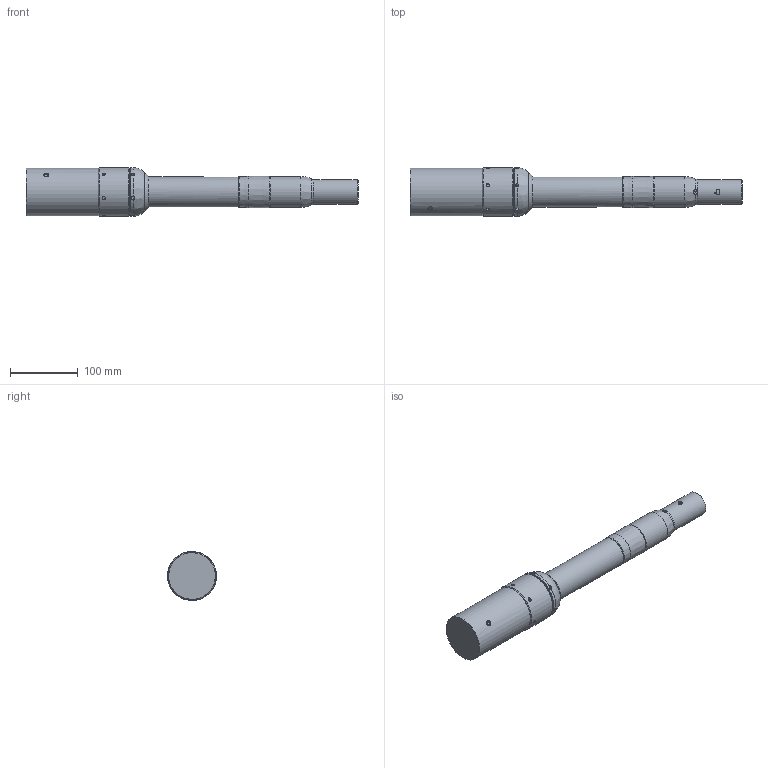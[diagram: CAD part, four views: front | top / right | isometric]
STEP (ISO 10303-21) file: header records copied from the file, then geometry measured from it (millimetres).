
FILE_DESCRIPTION(/* description */ (''),/* implementation_level */ '2;1');
FILE_NAME(/* name */ '10559656_A_SH08_STEP',/* time_stamp */ '2005-11-28T17:27:22+06:00',/* author */ (''),/* organization */ (''),/* preprocessor_version */ 'ST-DEVELOPER v9',/* originating_system */ 'EDS PLM SOLUTIONS - UNIGRAPHICS NX 2.0',/* authorisation */ '');
FILE_SCHEMA (('CONFIG_CONTROL_DESIGN'));
Length unit declared in the file: millimetre
Products named in the file (1): lgb54ACnsi9
Bounding box: 490.6 x 72.36 x 72.29 mm (x, y, z)
Volume: 1146655.3 mm3; surface area: 90471.7 mm2
Topology: 1 solids, 1 shells, 79 faces, 177 edges, 114 vertices
Faces by surface type: cylinder 40, plane 19, cone 12, torus 6, bspline 2
Full cylindrical faces by diameter (mm): 1.016 x1, 4.978 x12, 6.731 x1, 36.83 x1, 41.758 x1, 42.672 x1, 44.45 x1, 45.72 x1, 55.88 x1, 66.548 x1, 69.85 x1, 72.39 x2
Entity records: 3475 total; most frequent: CARTESIAN_POINT 1999, DIRECTION 278, ORIENTED_EDGE 216, EDGE_LOOP 139, AXIS2_PLACEMENT_3D 130, EDGE_CURVE 108, FACE_BOUND 93, VERTEX_POINT 92
